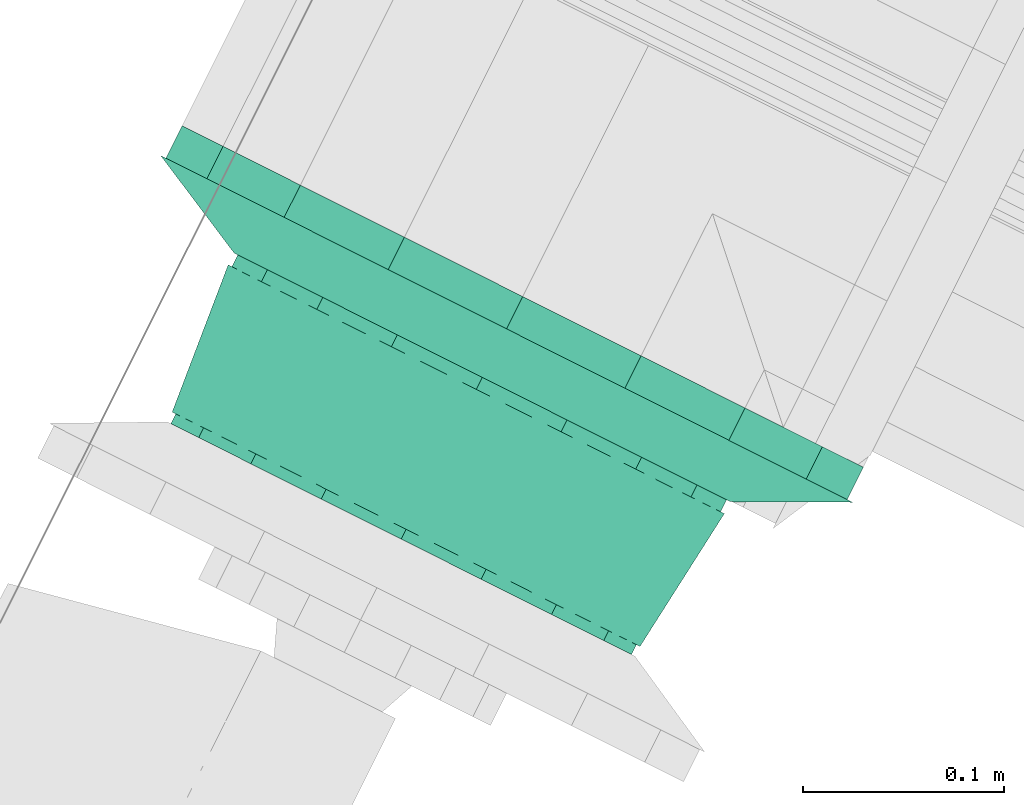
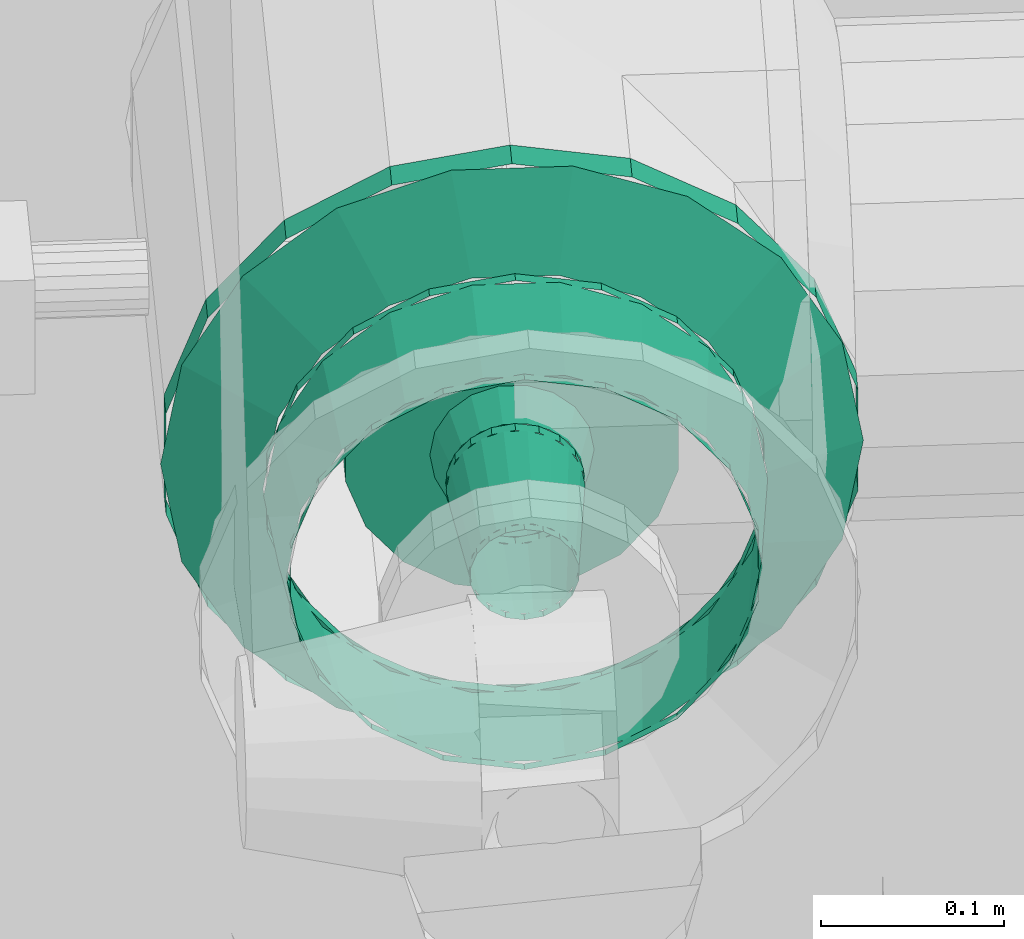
# One storey, part 144 of 206: 2 flow fittings.
"""IFC2X3 building model written with IfcOpenShell, lengths in metres."""

import ifcopenshell
import ifcopenshell.guid

model = None  # the IFC model being written
_history = None  # IfcOwnerHistory: only IFC2X3 demands one
_inside = {}  # id of a spatial element -> (the spatial element, [elements in it])
_under = {}  # id of a project, library or spatial element -> (it, [spatial elements below it])
_declared = {}  # id of a project -> (the project, [libraries it declares])
_typed = {}  # id of a type object -> (the type object, [elements of that type])
_made_of = {}  # id of a material, layer set ... -> (it, [elements and type objects made of it])


def new_model(schema):
    """Start an empty IFC model of exactly this schema.

    Asked for "IFC4X3", IfcOpenShell would pick the latest addendum, in which some entities
    have other attributes; the version numbers below select the first issue.
    IFC2X3 requires an IfcOwnerHistory on every rooted entity: one is made here for all.
    """
    global model, _history
    if schema == "IFC4X3":
        model = ifcopenshell.file(schema_version=(4, 3, 0, 0))
    else:
        model = ifcopenshell.file(schema=schema)
    _inside.clear()
    _under.clear()
    _declared.clear()
    _typed.clear()
    _made_of.clear()
    _history = None
    if model.schema == "IFC2X3":
        org = make("IfcOrganization", Name="unknown")
        user = make(
            "IfcPersonAndOrganization",
            ThePerson=make("IfcPerson", FamilyName="unknown"),
            TheOrganization=org,
        )
        app = make(
            "IfcApplication",
            ApplicationDeveloper=org,
            Version="unknown",
            ApplicationFullName="unknown",
            ApplicationIdentifier="unknown",
        )
        _history = make(
            "IfcOwnerHistory",
            OwningUser=user,
            OwningApplication=app,
            ChangeAction="ADDED",
            CreationDate=0,
        )
    return model


def make(cls, **values):
    """One entity of the class cls with the attributes given. An attribute that is None is left unset."""
    return model.create_entity(
        cls, **{name: value for name, value in values.items() if value is not None}
    )


def rooted(cls, **values):
    """An entity with a GlobalId (a new one), such as an element, a storey or a relation."""
    return make(cls, GlobalId=ifcopenshell.guid.new(), OwnerHistory=_history, **values)


def si_unit(unit_type, name, prefix=None):
    """IfcSIUnit, for example si_unit("LENGTHUNIT", "METRE", prefix="MILLI")."""
    return make("IfcSIUnit", UnitType=unit_type, Prefix=prefix, Name=name)


def derived_unit(unit_type, elements):
    """IfcDerivedUnit: a product of units, each with its exponent."""
    return make(
        "IfcDerivedUnit",
        Elements=[
            make("IfcDerivedUnitElement", Unit=unit, Exponent=power)
            for unit, power in elements
        ],
        UnitType=unit_type,
    )


def assignment(units):
    """IfcUnitAssignment: the units of a project."""
    return None if units is None else make("IfcUnitAssignment", Units=units)


def point(xyz):
    """IfcCartesianPoint."""
    return None if xyz is None else make("IfcCartesianPoint", Coordinates=xyz)


def direction(xyz):
    """IfcDirection."""
    return None if xyz is None else make("IfcDirection", DirectionRatios=xyz)


def frame(location, z_axis=None, x_axis=None):
    """IfcAxis2Placement3D, a coordinate frame: its origin and axes. An axis left out is left unset."""
    return make(
        "IfcAxis2Placement3D",
        Location=point(location),
        Axis=direction(z_axis),
        RefDirection=direction(x_axis),
    )


def origin():
    """The frame at (0, 0, 0) with its axes left unset."""
    return frame((0.0, 0.0, 0.0))


def place(relative_to, where):
    """IfcLocalPlacement: puts the frame where relative to a parent placement (None: the world)."""
    return make(
        "IfcLocalPlacement", PlacementRelTo=relative_to, RelativePlacement=where
    )


def context(
    kind, dimensions, precision=None, world=None, true_north=None, identifier=None
):
    """IfcGeometricRepresentationContext, for example the 3D "Model" context."""
    return make(
        "IfcGeometricRepresentationContext",
        ContextIdentifier=identifier,
        ContextType=kind,
        CoordinateSpaceDimension=dimensions,
        Precision=precision,
        WorldCoordinateSystem=world,
        TrueNorth=true_north,
    )


def subcontext(parent, identifier, kind, view, scale=None):
    """IfcGeometricRepresentationSubContext, for example "Body" below "Model"."""
    return make(
        "IfcGeometricRepresentationSubContext",
        ContextIdentifier=identifier,
        ContextType=kind,
        ParentContext=parent,
        TargetScale=scale,
        TargetView=view,
    )


def project(units=None, contexts=None):
    """IfcProject with its units and contexts."""
    return rooted(
        "IfcProject",
        Name="project",
        RepresentationContexts=contexts,
        UnitsInContext=assignment(units),
    )


def spatial(cls, under=None, at=None, **own):
    """A site, building, storey or space (cls), placed at a placement, below another one or the project."""
    s = rooted(cls, ObjectPlacement=at, **own)
    if under is not None:
        _under.setdefault(under.id(), (under, []))[1].append(s)
    return s


def faces_of(points, faces, orient=None, outer=None):
    """IfcFace entities. A face is a list of loops; a loop is a list of indices into points, from 0.

    orient and outer hold one flag for each loop. By default every Orientation is true, the
    first loop of a face is its IfcFaceOuterBound and the others are IfcFaceBound.
    """
    made = []
    for i, loops in enumerate(faces):
        bounds = []
        for j, loop in enumerate(loops):
            is_outer = j == 0 if outer is None else outer[i][j]
            bounds.append(
                make(
                    "IfcFaceOuterBound" if is_outer else "IfcFaceBound",
                    Bound=make("IfcPolyLoop", Polygon=[points[k] for k in loop]),
                    Orientation=True if orient is None else orient[i][j],
                )
            )
        made.append(make("IfcFace", Bounds=bounds))
    return made


def face_set(faces, orient=None, outer=None):
    """The faces of one IfcConnectedFaceSet. surface_model builds it on its shared points."""
    return ("IfcConnectedFaceSet", faces, orient, outer)


def surface_model(cls, points, shells):
    """IfcFaceBasedSurfaceModel or IfcShellBasedSurfaceModel (cls): surfaces that need not close."""
    shared = [point(p) for p in points]
    made = [make(c, CfsFaces=faces_of(shared, fs, o, b)) for c, fs, o, b in shells]
    if cls == "IfcFaceBasedSurfaceModel":
        return make(cls, FbsmFaces=made)
    return make(cls, SbsmBoundary=made)


def shape(context_of_items, identifier, shape_type, items):
    """IfcShapeRepresentation: the items that make up one representation, for example the "Body"."""
    return make(
        "IfcShapeRepresentation",
        ContextOfItems=context_of_items,
        RepresentationIdentifier=identifier,
        RepresentationType=shape_type,
        Items=items,
    )


def source(mapping_origin, context_of_items, identifier, shape_type, items):
    """IfcRepresentationMap: a shape defined once, which mapped items show again and again."""
    return make(
        "IfcRepresentationMap",
        MappingOrigin=mapping_origin,
        MappedRepresentation=shape(context_of_items, identifier, shape_type, items),
    )


def transform(
    local_origin,
    x_axis=None,
    y_axis=None,
    z_axis=None,
    scale=None,
    scale2=None,
    scale3=None,
    uniform=True,
):
    """IfcCartesianTransformationOperator3D, or its non-uniform kind. x_axis, y_axis, z_axis: its Axis1, 2, 3."""
    if uniform:
        return make(
            "IfcCartesianTransformationOperator3D",
            Axis1=direction(x_axis),
            Axis2=direction(y_axis),
            LocalOrigin=point(local_origin),
            Scale=scale,
            Axis3=direction(z_axis),
        )
    return make(
        "IfcCartesianTransformationOperator3DnonUniform",
        Axis1=direction(x_axis),
        Axis2=direction(y_axis),
        LocalOrigin=point(local_origin),
        Scale=scale,
        Axis3=direction(z_axis),
        Scale2=scale2,
        Scale3=scale3,
    )


def mapped(mapping_source, mapping_target):
    """IfcMappedItem: shows the shape of a source again, moved by a transform."""
    return make(
        "IfcMappedItem", MappingSource=mapping_source, MappingTarget=mapping_target
    )


def material(Name=None, Category=None):
    """IfcMaterial."""
    return make("IfcMaterial", Name=Name, Category=Category)


def made_of(thing, what):
    """Note that an element or type object is made of a material, layer set ...; save() writes the relation."""
    if what is not None:
        _made_of.setdefault(what.id(), (what, []))[1].append(thing)
    return thing


def type_object(cls, material=None, **own):
    """A type object (cls), such as IfcWallType, which elements share."""
    return made_of(rooted(cls, **own), material)


def type_shapes(of_type, sources):
    """Give a type object the sources (RepresentationMaps) that its elements show as mapped items."""
    of_type.RepresentationMaps = sources


def element(
    cls,
    number,
    at=None,
    inside=None,
    cuts=None,
    type_object=None,
    material=None,
    context=None,
    identifier="Body",
    shape_type=None,
    held_by="IfcProductDefinitionShape",
    body=None,
    shapes=None,
    **own,
):
    """One element of the class cls, such as IfcWall. Its Tag is "e" and its number.

    at: its placement. inside: the storey or other place that contains it. cuts: it is an
    opening in that element (IfcRelVoidsElement). A single representation is given by context,
    identifier, shape_type and body (its items); several are given by shapes. held_by: the class
    of the entity that holds the representations. save() writes the other relations.
    """
    e = rooted(cls, Tag="e%d" % number, ObjectPlacement=at, **own)
    if body is not None:
        shapes = [shape(context, identifier, shape_type, body)]
    if shapes is not None:
        e.Representation = make(held_by, Representations=shapes)
    if inside is not None:
        _inside.setdefault(inside.id(), (inside, []))[1].append(e)
    if cuts is not None:
        rooted(
            "IfcRelVoidsElement", RelatingBuildingElement=cuts, RelatedOpeningElement=e
        )
    if type_object is not None:
        _typed.setdefault(type_object.id(), (type_object, []))[1].append(e)
    return made_of(e, material)


def aggregate(whole, parts):
    """IfcRelAggregates: a whole, such as a stair, and the parts it consists of."""
    return rooted("IfcRelAggregates", RelatingObject=whole, RelatedObjects=parts)


def save(model, path):
    """Write the relations noted so far, then the file.

    IfcRelAggregates (storeys below a building ...), IfcRelContainedInSpatialStructure (elements
    in a storey), IfcRelDefinesByType, IfcRelAssociatesMaterial and IfcRelDeclares: one each for
    every whole, place, type object, material and project.
    """
    for whole, parts in _under.values():
        aggregate(whole, parts)
    for where, things in _inside.values():
        rooted(
            "IfcRelContainedInSpatialStructure",
            RelatedElements=things,
            RelatingStructure=where,
        )
    for kind, things in _typed.values():
        rooted("IfcRelDefinesByType", RelatedObjects=things, RelatingType=kind)
    for what, things in _made_of.values():
        rooted("IfcRelAssociatesMaterial", RelatedObjects=things, RelatingMaterial=what)
    for by, libraries in _declared.values():
        rooted("IfcRelDeclares", RelatingContext=by, RelatedDefinitions=libraries)
    model.write(path)


model = new_model("IFC2X3")

# Units and contexts
model_context = context("Model", 3, precision=5.2338327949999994e-05, world=origin(), true_north=direction((0.0, 1.0)))
body_context = subcontext(model_context, "Body", "Model", "MODEL_VIEW")
ifc_project = project(units=[si_unit("LENGTHUNIT", "METRE"), si_unit("AREAUNIT", "SQUARE_METRE"), si_unit("VOLUMEUNIT", "CUBIC_METRE"), si_unit("MASSUNIT", "GRAM", prefix="KILO"), si_unit("PLANEANGLEUNIT", "RADIAN"), derived_unit("THERMALTRANSMITTANCEUNIT", [(si_unit("MASSUNIT", "GRAM", prefix="KILO"), 1), (si_unit("THERMODYNAMICTEMPERATUREUNIT", "KELVIN"), -1), (si_unit("TIMEUNIT", "SECOND"), -3)])], contexts=[model_context])

# Site, building, storey
site_placement = place(None, frame((0.0, 0.0, 0.0), z_axis=(0.0, 0.0, 1.0), x_axis=(0.8939966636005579, -0.4480736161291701, 0.0)))
site = spatial("IfcSite", under=ifc_project, at=site_placement, Name="Default", CompositionType="ELEMENT")
building_placement = place(site_placement, origin())
building = spatial("IfcBuilding", under=site, at=building_placement, CompositionType="ELEMENT")
storey_placement = place(building_placement, origin())
storey = spatial("IfcBuildingStorey", under=building, at=storey_placement, Name="Erdgeschoss", CompositionType="ELEMENT", Elevation=0.0)

# Flow fittings
ifc_material = material(Name="IfcSurfaceStyle #1741")
distribution_element_type_1 = type_object("IfcDistributionElementType", Name="Flansch 325929:Flansch 325929", material=ifc_material)
shared_shape_1 = source(origin(), body_context, "Body", "SurfaceModel", [
    surface_model("IfcFaceBasedSurfaceModel", [(29.960127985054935, 9.562419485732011, 2.2215), (29.991764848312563, 9.562419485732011, 2.227078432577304), (29.991764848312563, 9.544419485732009, 2.227078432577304), (29.960127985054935, 9.544419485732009, 2.2215), (30.019585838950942, 9.562419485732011, 2.243140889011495), (30.019585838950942, 9.544419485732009, 2.243140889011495), (30.040235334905, 9.562419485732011, 2.2677499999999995), (30.040235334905, 9.544419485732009, 2.2677499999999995), (30.051222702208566, 9.562419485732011, 2.2979375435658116), (30.051222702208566, 9.544419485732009, 2.2979375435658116), (30.051222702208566, 9.562419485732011, 2.3300624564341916), (30.051222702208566, 9.544419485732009, 2.3300624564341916), (30.040235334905, 9.562419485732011, 2.360250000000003), (30.040235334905, 9.544419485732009, 2.360250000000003), (30.019585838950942, 9.562419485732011, 2.3848591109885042), (30.019585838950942, 9.544419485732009, 2.3848591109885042), (29.991764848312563, 9.562419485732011, 2.4009215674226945), (29.991764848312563, 9.544419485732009, 2.4009215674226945), (29.960127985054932, 9.562419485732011, 2.4065000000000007), (29.960127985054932, 9.544419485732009, 2.4065000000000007), (29.92849112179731, 9.562419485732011, 2.400921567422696), (29.92849112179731, 9.544419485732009, 2.400921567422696), (29.900670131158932, 9.562419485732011, 2.3848591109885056), (29.900670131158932, 9.544419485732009, 2.3848591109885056), (29.880020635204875, 9.562419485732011, 2.3602500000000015), (29.880020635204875, 9.544419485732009, 2.3602500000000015), (29.869033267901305, 9.562419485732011, 2.3300624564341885), (29.869033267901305, 9.544419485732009, 2.3300624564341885), (29.869033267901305, 9.562419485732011, 2.2979375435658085), (29.869033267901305, 9.544419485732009, 2.2979375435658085), (29.880020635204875, 9.562419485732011, 2.267749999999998), (29.880020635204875, 9.544419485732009, 2.267749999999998), (29.900670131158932, 9.562419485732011, 2.243140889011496), (29.900670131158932, 9.544419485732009, 2.243140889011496), (29.92849112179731, 9.562419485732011, 2.2270784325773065), (29.92849112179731, 9.544419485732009, 2.2270784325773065), (29.960127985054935, 9.544419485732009, 2.314), (30.005127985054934, 9.544419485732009, 2.314), (30.002414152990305, 9.544419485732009, 2.3293909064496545), (29.995883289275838, 9.51741948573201, 2.3270138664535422), (29.998177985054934, 9.517419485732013, 2.3139999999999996), (29.99459998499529, 9.544419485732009, 2.342925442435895), (29.989275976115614, 9.51741948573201, 2.338458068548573), (29.982627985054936, 9.544419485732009, 2.352971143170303), (29.979152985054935, 9.51741948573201, 2.346952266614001), (29.967942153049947, 9.544419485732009, 2.35831634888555), (29.966735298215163, 9.51741948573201, 2.3514719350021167), (29.952313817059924, 9.544419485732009, 2.3583163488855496), (29.95352067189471, 9.51741948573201, 2.351471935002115), (29.937627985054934, 9.544419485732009, 2.352971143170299), (29.94110298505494, 9.51741948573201, 2.3469522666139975), (29.925655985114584, 9.54441948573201, 2.3429254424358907), (29.93097999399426, 9.517419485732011, 2.3384580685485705), (29.91784181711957, 9.544419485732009, 2.3293909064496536), (29.92437268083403, 9.51741948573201, 2.327013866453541), (29.91512798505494, 9.54441948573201, 2.314), (29.92207798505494, 9.517419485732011, 2.314), (29.917841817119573, 9.54441948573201, 2.2986090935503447), (29.924372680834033, 9.517419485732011, 2.3009861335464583), (29.925655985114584, 9.544419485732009, 2.2850745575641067), (29.93097999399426, 9.51741948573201, 2.289541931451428), (29.937627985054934, 9.544419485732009, 2.2750288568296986), (29.94110298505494, 9.51741948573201, 2.2810477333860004), (29.952313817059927, 9.544419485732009, 2.2696836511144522), (29.953520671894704, 9.51741948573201, 2.2765280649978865), (29.96794215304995, 9.544419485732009, 2.269683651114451), (29.966735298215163, 9.51741948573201, 2.2765280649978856), (29.982627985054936, 9.544419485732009, 2.275028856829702), (29.979152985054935, 9.51741948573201, 2.2810477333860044), (29.99459998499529, 9.544419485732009, 2.285074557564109), (29.989275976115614, 9.51741948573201, 2.28954193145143), (30.0024141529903, 9.544419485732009, 2.2986090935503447), (29.995883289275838, 9.51741948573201, 2.3009861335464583), (29.960127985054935, 9.562419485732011, 2.1214999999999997), (30.02596686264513, 9.562419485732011, 2.1331091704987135), (30.02596686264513, 9.544419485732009, 2.1331091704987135), (29.960127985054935, 9.544419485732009, 2.1214999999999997), (30.083864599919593, 9.562419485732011, 2.166536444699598), (30.083864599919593, 9.544419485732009, 2.166536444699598), (30.126837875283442, 9.562419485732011, 2.2177500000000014), (30.126837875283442, 9.544419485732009, 2.2177500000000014), (30.149703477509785, 9.562419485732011, 2.2805727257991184), (30.149703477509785, 9.544419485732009, 2.2805727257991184), (30.149703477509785, 9.562419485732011, 2.347427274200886), (30.149703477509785, 9.544419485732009, 2.347427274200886), (30.126837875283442, 9.562419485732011, 2.410250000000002), (30.126837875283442, 9.544419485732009, 2.410250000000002), (30.083864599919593, 9.562419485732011, 2.4614635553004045), (30.083864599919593, 9.544419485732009, 2.4614635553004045), (30.025966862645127, 9.562419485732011, 2.4948908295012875), (30.025966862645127, 9.544419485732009, 2.4948908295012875), (29.960127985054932, 9.562419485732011, 2.506499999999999), (29.960127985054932, 9.544419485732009, 2.5065), (29.894289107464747, 9.562419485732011, 2.494890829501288), (29.894289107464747, 9.544419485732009, 2.494890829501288), (29.836391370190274, 9.562419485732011, 2.4614635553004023), (29.836391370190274, 9.544419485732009, 2.4614635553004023), (29.793418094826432, 9.562419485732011, 2.410250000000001), (29.793418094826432, 9.544419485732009, 2.410250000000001), (29.770552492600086, 9.562419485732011, 2.3474272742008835), (29.770552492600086, 9.544419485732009, 2.3474272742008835), (29.770552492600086, 9.562419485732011, 2.2805727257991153), (29.770552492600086, 9.544419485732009, 2.2805727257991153), (29.793418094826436, 9.562419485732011, 2.217749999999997), (29.793418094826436, 9.544419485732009, 2.217749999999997), (29.83639137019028, 9.562419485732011, 2.166536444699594), (29.83639137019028, 9.544419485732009, 2.166536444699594), (29.894289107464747, 9.562419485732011, 2.133109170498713), (29.894289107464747, 9.544419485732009, 2.133109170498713), (30.152627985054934, 9.544419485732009, 2.3140000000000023), (30.141018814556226, 9.544419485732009, 2.379838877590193), (30.08985255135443, 9.51741948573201, 2.3612158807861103), (30.098177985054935, 9.51741948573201, 2.3140000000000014), (30.107591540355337, 9.544419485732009, 2.43773661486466), (30.06588042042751, 9.51741948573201, 2.4027368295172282), (30.056377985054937, 9.544419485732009, 2.480709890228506), (30.029152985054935, 9.51741948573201, 2.433554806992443), (29.993555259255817, 9.544419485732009, 2.5035754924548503), (29.98410011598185, 9.51741948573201, 2.449952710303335), (29.92670071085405, 9.544419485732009, 2.50357549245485), (29.936155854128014, 9.51741948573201, 2.449952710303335), (29.863877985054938, 9.544419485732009, 2.4807098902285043), (29.891102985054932, 9.51741948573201, 2.4335548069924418), (29.81266442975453, 9.544419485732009, 2.4377366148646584), (29.85437554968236, 9.51741948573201, 2.402736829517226), (29.77923715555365, 9.54441948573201, 2.3798388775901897), (29.830403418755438, 9.517419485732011, 2.3612158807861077), (29.767627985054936, 9.544419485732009, 2.313999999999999), (29.82207798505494, 9.51741948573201, 2.313999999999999), (29.77923715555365, 9.54441948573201, 2.2481611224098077), (29.830403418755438, 9.517419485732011, 2.2667841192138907), (29.81266442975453, 9.54441948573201, 2.1902633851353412), (29.854375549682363, 9.517419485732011, 2.2252631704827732), (29.86387798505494, 9.544419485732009, 2.147290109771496), (29.891102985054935, 9.51741948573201, 2.194445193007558), (29.92670071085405, 9.544419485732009, 2.12442450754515), (29.936155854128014, 9.51741948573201, 2.1780472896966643), (29.993555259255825, 9.544419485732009, 2.1244245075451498), (29.98410011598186, 9.51741948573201, 2.178047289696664), (30.056377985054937, 9.544419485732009, 2.1472901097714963), (30.029152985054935, 9.51741948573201, 2.194445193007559), (30.107591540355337, 9.544419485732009, 2.190263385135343), (30.06588042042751, 9.51741948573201, 2.225263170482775), (30.141018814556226, 9.544419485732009, 2.2481611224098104), (30.089852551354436, 9.51741948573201, 2.2667841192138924)], [face_set([[[0, 1, 2, 3]], [[1, 4, 5, 2]], [[4, 6, 7, 5]], [[6, 8, 9, 7]], [[8, 10, 11, 9]], [[10, 12, 13, 11]], [[12, 14, 15, 13]], [[14, 16, 17, 15]], [[16, 18, 19, 17]], [[18, 20, 21, 19]], [[20, 22, 23, 21]], [[22, 24, 25, 23]], [[24, 26, 27, 25]], [[26, 28, 29, 27]], [[28, 30, 31, 29]], [[30, 32, 33, 31]], [[32, 34, 35, 33]], [[34, 0, 3, 35]], [[36, 35, 3]], [[36, 33, 35]], [[36, 31, 33]], [[36, 29, 31]], [[36, 27, 29]], [[36, 25, 27]], [[36, 23, 25]], [[36, 21, 23]], [[36, 19, 21]], [[36, 17, 19]], [[36, 15, 17]], [[36, 13, 15]], [[36, 11, 13]], [[36, 9, 11]], [[36, 7, 9]], [[36, 5, 7]], [[36, 2, 5]], [[36, 3, 2]], [[37, 38, 39, 40]], [[38, 41, 42, 39]], [[41, 43, 44, 42]], [[43, 45, 46, 44]], [[45, 47, 48, 46]], [[47, 49, 50, 48]], [[49, 51, 52, 50]], [[51, 53, 54, 52]], [[53, 55, 56, 54]], [[55, 57, 58, 56]], [[57, 59, 60, 58]], [[59, 61, 62, 60]], [[61, 63, 64, 62]], [[63, 65, 66, 64]], [[65, 67, 68, 66]], [[67, 69, 70, 68]], [[69, 71, 72, 70]], [[71, 37, 40, 72]], [[73, 74, 75, 76]], [[74, 77, 78, 75]], [[77, 79, 80, 78]], [[79, 81, 82, 80]], [[81, 83, 84, 82]], [[83, 85, 86, 84]], [[85, 87, 88, 86]], [[87, 89, 90, 88]], [[89, 91, 92, 90]], [[91, 93, 94, 92]], [[93, 95, 96, 94]], [[95, 97, 98, 96]], [[97, 99, 100, 98]], [[99, 101, 102, 100]], [[101, 103, 104, 102]], [[103, 105, 106, 104]], [[105, 107, 108, 106]], [[107, 73, 76, 108]], [[109, 110, 111, 112]], [[110, 113, 114, 111]], [[113, 115, 116, 114]], [[115, 117, 118, 116]], [[117, 119, 120, 118]], [[119, 121, 122, 120]], [[121, 123, 124, 122]], [[123, 125, 126, 124]], [[125, 127, 128, 126]], [[127, 129, 130, 128]], [[129, 131, 132, 130]], [[131, 133, 134, 132]], [[133, 135, 136, 134]], [[135, 137, 138, 136]], [[137, 139, 140, 138]], [[139, 141, 142, 140]], [[141, 143, 144, 142]], [[143, 109, 112, 144]]])]),
])
type_shapes(distribution_element_type_1, [shared_shape_1])
flow_fitting_1_placement = place(storey_placement, origin())
element("IfcFlowFitting", 1, at=flow_fitting_1_placement, inside=storey, type_object=distribution_element_type_1, material=ifc_material, Name="Flansch", ObjectType="Flansch", context=body_context, shape_type="MappedRepresentation", body=[
    mapped(shared_shape_1, transform((0.0, 0.0, 0.0), scale=1.0)),
])
distribution_element_type_2 = type_object("IfcDistributionElementType", Name="Übergangsstück 325952:Übergangsstück 325952", material=ifc_material)
shared_shape_2 = source(origin(), body_context, "Body", "SurfaceModel", [
    surface_model("IfcFaceBasedSurfaceModel", [(29.960127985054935, 9.427419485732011, 2.344150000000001), (29.97043989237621, 9.427419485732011, 2.342331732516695), (29.97043989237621, 9.432910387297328, 2.342331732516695), (29.960127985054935, 9.432910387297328, 2.344150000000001), (29.979508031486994, 9.427419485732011, 2.3370962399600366), (29.979508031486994, 9.432910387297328, 2.3370962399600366), (29.986238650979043, 9.427419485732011, 2.329075), (29.986238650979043, 9.432910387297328, 2.329075), (29.989819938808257, 9.427419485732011, 2.319235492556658), (29.989819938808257, 9.432910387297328, 2.319235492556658), (29.989819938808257, 9.427419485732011, 2.308764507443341), (29.989819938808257, 9.432910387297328, 2.308764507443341), (29.986238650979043, 9.427419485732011, 2.298924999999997), (29.986238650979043, 9.432910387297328, 2.298924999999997), (29.97950803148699, 9.427419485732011, 2.2909037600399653), (29.97950803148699, 9.432910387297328, 2.2909037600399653), (29.97043989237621, 9.427419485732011, 2.285668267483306), (29.97043989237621, 9.432910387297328, 2.285668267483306), (29.960127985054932, 9.427419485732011, 2.2838500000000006), (29.960127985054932, 9.432910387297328, 2.2838500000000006), (29.94981607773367, 9.427419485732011, 2.2856682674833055), (29.94981607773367, 9.432910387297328, 2.2856682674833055), (29.94074793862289, 9.427419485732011, 2.290903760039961), (29.94074793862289, 9.432910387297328, 2.290903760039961), (29.934017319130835, 9.427419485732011, 2.2989250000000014), (29.934017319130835, 9.432910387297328, 2.2989250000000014), (29.930436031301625, 9.427419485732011, 2.308764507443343), (29.930436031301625, 9.432910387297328, 2.308764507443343), (29.930436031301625, 9.427419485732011, 2.319235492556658), (29.930436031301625, 9.432910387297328, 2.319235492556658), (29.934017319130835, 9.427419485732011, 2.3290750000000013), (29.934017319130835, 9.432910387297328, 2.3290750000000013), (29.940747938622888, 9.427419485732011, 2.337096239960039), (29.940747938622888, 9.432910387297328, 2.337096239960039), (29.949816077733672, 9.427419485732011, 2.3423317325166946), (29.949816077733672, 9.432910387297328, 2.3423317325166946), (29.92997798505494, 9.432910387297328, 2.314), (29.93179625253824, 9.432910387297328, 2.324311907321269), (29.92437268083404, 9.510804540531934, 2.3270138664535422), (29.922077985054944, 9.510804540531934, 2.3140000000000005), (29.937031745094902, 9.432910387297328, 2.3333800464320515), (29.93097999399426, 9.510804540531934, 2.338458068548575), (29.945052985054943, 9.432910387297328, 2.3401106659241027), (29.941102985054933, 9.510804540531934, 2.3469522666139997), (29.954892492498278, 9.432910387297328, 2.3436919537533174), (29.953520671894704, 9.510804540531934, 2.3514719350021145), (29.965363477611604, 9.432910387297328, 2.3436919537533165), (29.966735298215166, 9.510804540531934, 2.351471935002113), (29.97520298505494, 9.432910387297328, 2.3401106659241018), (29.979152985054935, 9.510804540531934, 2.3469522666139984), (29.98322422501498, 9.432910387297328, 2.3333800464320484), (29.989275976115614, 9.510804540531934, 2.3384580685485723), (29.98845971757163, 9.432910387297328, 2.3243119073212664), (29.995883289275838, 9.510804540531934, 2.3270138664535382), (29.990277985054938, 9.432910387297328, 2.3139999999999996), (29.998177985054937, 9.510804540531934, 2.3139999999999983), (29.98845971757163, 9.432910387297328, 2.3036880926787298), (29.995883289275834, 9.510804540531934, 2.3009861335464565), (29.983224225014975, 9.432910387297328, 2.2946199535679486), (29.989275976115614, 9.510804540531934, 2.2895419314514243), (29.97520298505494, 9.432910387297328, 2.287889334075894), (29.97915298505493, 9.510804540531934, 2.281047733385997), (29.965363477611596, 9.432910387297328, 2.2843080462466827), (29.966735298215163, 9.510804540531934, 2.2765280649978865), (29.954892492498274, 9.432910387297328, 2.2843080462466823), (29.953520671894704, 9.510804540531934, 2.276528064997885), (29.94505298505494, 9.432910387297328, 2.287889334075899), (29.94110298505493, 9.510804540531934, 2.2810477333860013), (29.937031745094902, 9.432910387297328, 2.2946199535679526), (29.930979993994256, 9.510804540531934, 2.289541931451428), (29.931796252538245, 9.432910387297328, 2.3036880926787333), (29.924372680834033, 9.510804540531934, 2.3009861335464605), (29.960127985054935, 9.510804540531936, 2.35205), (29.97314185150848, 9.510804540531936, 2.3497553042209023), (29.97314185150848, 9.51741948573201, 2.3497553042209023), (29.960127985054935, 9.51741948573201, 2.35205), (29.98458605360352, 9.510804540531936, 2.3431479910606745), (29.98458605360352, 9.51741948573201, 2.3431479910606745), (29.993080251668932, 9.510804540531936, 2.333024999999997), (29.993080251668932, 9.51741948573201, 2.333024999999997), (29.997599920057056, 9.510804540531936, 2.3206073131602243), (29.997599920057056, 9.51741948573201, 2.3206073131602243), (29.997599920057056, 9.510804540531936, 2.3073926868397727), (29.997599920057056, 9.51741948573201, 2.3073926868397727), (29.993080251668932, 9.510804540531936, 2.294975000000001), (29.993080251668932, 9.51741948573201, 2.294975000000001), (29.98458605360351, 9.510804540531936, 2.2848520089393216), (29.98458605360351, 9.51741948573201, 2.2848520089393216), (29.97314185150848, 9.510804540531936, 2.2782446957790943), (29.97314185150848, 9.51741948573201, 2.2782446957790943), (29.960127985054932, 9.510804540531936, 2.275950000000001), (29.960127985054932, 9.51741948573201, 2.275950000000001), (29.947114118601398, 9.510804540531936, 2.278244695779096), (29.947114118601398, 9.51741948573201, 2.278244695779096), (29.935669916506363, 9.510804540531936, 2.284852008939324), (29.935669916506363, 9.51741948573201, 2.284852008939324), (29.92717571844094, 9.510804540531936, 2.2949749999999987), (29.92717571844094, 9.51741948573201, 2.2949749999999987), (29.922656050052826, 9.510804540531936, 2.3073926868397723), (29.922656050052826, 9.51741948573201, 2.3073926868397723), (29.922656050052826, 9.510804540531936, 2.3206073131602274), (29.922656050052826, 9.51741948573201, 2.3206073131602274), (29.92717571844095, 9.510804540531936, 2.333025), (29.92717571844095, 9.51741948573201, 2.333025), (29.935669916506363, 9.510804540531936, 2.3431479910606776), (29.935669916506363, 9.51741948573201, 2.3431479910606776), (29.947114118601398, 9.510804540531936, 2.349755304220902), (29.947114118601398, 9.51741948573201, 2.349755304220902), (29.960127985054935, 9.427419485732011, 2.4441500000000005), (30.00464190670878, 9.427419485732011, 2.4363009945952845), (30.00464190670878, 9.432910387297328, 2.4363009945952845), (29.960127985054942, 9.432910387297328, 2.44415), (30.043786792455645, 9.427419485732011, 2.4137006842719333), (30.043786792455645, 9.432910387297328, 2.4137006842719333), (30.072841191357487, 9.427419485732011, 2.379074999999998), (30.072841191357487, 9.432910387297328, 2.379074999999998), (30.088300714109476, 9.427419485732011, 2.3366003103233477), (30.088300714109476, 9.432910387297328, 2.3366003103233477), (30.088300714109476, 9.427419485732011, 2.2913996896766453), (30.088300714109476, 9.432910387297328, 2.2913996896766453), (30.072841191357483, 9.427419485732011, 2.248924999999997), (30.072841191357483, 9.432910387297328, 2.248924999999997), (30.043786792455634, 9.427419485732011, 2.2142993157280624), (30.043786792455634, 9.432910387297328, 2.2142993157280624), (30.004641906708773, 9.427419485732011, 2.1916990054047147), (30.004641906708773, 9.432910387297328, 2.1916990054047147), (29.960127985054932, 9.427419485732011, 2.1838500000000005), (29.960127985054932, 9.432910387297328, 2.1838500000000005), (29.9156140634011, 9.427419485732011, 2.191699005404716), (29.9156140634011, 9.432910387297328, 2.191699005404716), (29.876469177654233, 9.427419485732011, 2.2142993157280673), (29.876469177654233, 9.432910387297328, 2.2142993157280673), (29.84741477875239, 9.427419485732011, 2.248925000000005), (29.84741477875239, 9.432910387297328, 2.248925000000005), (29.831955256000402, 9.427419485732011, 2.2913996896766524), (29.831955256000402, 9.432910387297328, 2.2913996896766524), (29.831955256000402, 9.427419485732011, 2.336600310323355), (29.831955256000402, 9.432910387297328, 2.336600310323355), (29.8474147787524, 9.427419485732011, 2.379075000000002), (29.8474147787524, 9.432910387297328, 2.379075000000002), (29.87646917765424, 9.427419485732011, 2.4137006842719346), (29.87646917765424, 9.432910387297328, 2.4137006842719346), (29.9156140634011, 9.427419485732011, 2.4363009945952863), (29.9156140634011, 9.432910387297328, 2.4363009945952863), (29.829977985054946, 9.432910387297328, 2.314000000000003), (29.83782699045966, 9.432910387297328, 2.3585139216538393), (29.830403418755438, 9.510804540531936, 2.361215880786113), (29.82207798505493, 9.510804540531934, 2.3140000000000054), (29.860427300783, 9.432910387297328, 2.397658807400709), (29.854375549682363, 9.510804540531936, 2.4027368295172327), (29.895052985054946, 9.432910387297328, 2.426713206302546), (29.891102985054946, 9.510804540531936, 2.433554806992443), (29.93752767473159, 9.432910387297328, 2.4421727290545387), (29.936155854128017, 9.510804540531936, 2.4499527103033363), (29.982728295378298, 9.432910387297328, 2.4421727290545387), (29.984100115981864, 9.510804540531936, 2.4499527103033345), (30.025202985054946, 9.432910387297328, 2.426713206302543), (30.02915298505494, 9.510804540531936, 2.43355480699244), (30.05982866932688, 9.432910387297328, 2.3976588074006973), (30.065880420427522, 9.510804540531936, 2.4027368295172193), (30.082428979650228, 9.432910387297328, 2.3585139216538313), (30.089852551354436, 9.510804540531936, 2.3612158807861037), (30.090277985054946, 9.432910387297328, 2.3139999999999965), (30.09817798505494, 9.510804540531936, 2.313999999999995), (30.08242897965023, 9.432910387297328, 2.2694860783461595), (30.08985255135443, 9.510804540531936, 2.2667841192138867), (30.059828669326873, 9.432910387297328, 2.2303411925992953), (30.065880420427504, 9.510804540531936, 2.2252631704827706), (30.025202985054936, 9.432910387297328, 2.201286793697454), (30.02915298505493, 9.510804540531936, 2.1944451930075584), (29.98272829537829, 9.432910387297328, 2.185827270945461), (29.98410011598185, 9.510804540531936, 2.178047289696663), (29.937527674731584, 9.432910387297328, 2.185827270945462), (29.936155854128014, 9.510804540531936, 2.178047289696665), (29.895052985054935, 9.432910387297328, 2.201286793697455), (29.891102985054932, 9.510804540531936, 2.1944451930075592), (29.860427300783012, 9.432910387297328, 2.2303411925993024), (29.85437554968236, 9.510804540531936, 2.2252631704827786), (29.837826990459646, 9.432910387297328, 2.2694860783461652), (29.830403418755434, 9.510804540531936, 2.266784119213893), (29.960127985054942, 9.510804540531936, 2.4520500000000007), (30.007343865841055, 9.510804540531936, 2.443724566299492), (30.007343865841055, 9.51741948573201, 2.443724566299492), (29.960127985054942, 9.51741948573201, 2.4520500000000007), (30.048864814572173, 9.510804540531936, 2.4197524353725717), (30.048864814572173, 9.51741948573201, 2.4197524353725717), (30.079682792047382, 9.510804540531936, 2.383024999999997), (30.079682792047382, 9.51741948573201, 2.383024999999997), (30.096080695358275, 9.510804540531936, 2.337972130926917), (30.096080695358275, 9.51741948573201, 2.337972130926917), (30.096080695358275, 9.510804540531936, 2.290027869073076), (30.096080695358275, 9.51741948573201, 2.290027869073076), (30.07968279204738, 9.510804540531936, 2.244975), (30.07968279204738, 9.51741948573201, 2.244975), (30.04886481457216, 9.510804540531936, 2.2082475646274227), (30.04886481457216, 9.51741948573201, 2.2082475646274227), (30.007343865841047, 9.510804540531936, 2.1842754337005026), (30.007343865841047, 9.51741948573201, 2.1842754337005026), (29.960127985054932, 9.510804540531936, 2.1759500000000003), (29.960127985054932, 9.51741948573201, 2.1759500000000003), (29.912912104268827, 9.510804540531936, 2.184275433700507), (29.912912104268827, 9.51741948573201, 2.184275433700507), (29.8713911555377, 9.510804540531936, 2.208247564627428), (29.8713911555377, 9.51741948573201, 2.208247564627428), (29.840573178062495, 9.510804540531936, 2.2449750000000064), (29.840573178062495, 9.51741948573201, 2.2449750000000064), (29.824175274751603, 9.510804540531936, 2.2900278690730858), (29.824175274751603, 9.51741948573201, 2.2900278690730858), (29.824175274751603, 9.510804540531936, 2.3379721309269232), (29.824175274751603, 9.51741948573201, 2.3379721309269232), (29.8405731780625, 9.510804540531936, 2.383025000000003), (29.8405731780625, 9.51741948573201, 2.383025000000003), (29.871391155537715, 9.510804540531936, 2.4197524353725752), (29.871391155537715, 9.51741948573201, 2.4197524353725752), (29.912912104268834, 9.510804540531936, 2.443724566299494), (29.912912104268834, 9.51741948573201, 2.443724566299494)], [face_set([[[0, 1, 2, 3]], [[1, 4, 5, 2]], [[4, 6, 7, 5]], [[6, 8, 9, 7]], [[8, 10, 11, 9]], [[10, 12, 13, 11]], [[12, 14, 15, 13]], [[14, 16, 17, 15]], [[16, 18, 19, 17]], [[18, 20, 21, 19]], [[20, 22, 23, 21]], [[22, 24, 25, 23]], [[24, 26, 27, 25]], [[26, 28, 29, 27]], [[28, 30, 31, 29]], [[30, 32, 33, 31]], [[32, 34, 35, 33]], [[34, 0, 3, 35]], [[36, 37, 38, 39]], [[37, 40, 41, 38]], [[40, 42, 43, 41]], [[42, 44, 45, 43]], [[44, 46, 47, 45]], [[46, 48, 49, 47]], [[48, 50, 51, 49]], [[50, 52, 53, 51]], [[52, 54, 55, 53]], [[54, 56, 57, 55]], [[56, 58, 59, 57]], [[58, 60, 61, 59]], [[60, 62, 63, 61]], [[62, 64, 65, 63]], [[64, 66, 67, 65]], [[66, 68, 69, 67]], [[68, 70, 71, 69]], [[70, 36, 39, 71]], [[72, 73, 74, 75]], [[73, 76, 77, 74]], [[76, 78, 79, 77]], [[78, 80, 81, 79]], [[80, 82, 83, 81]], [[82, 84, 85, 83]], [[84, 86, 87, 85]], [[86, 88, 89, 87]], [[88, 90, 91, 89]], [[90, 92, 93, 91]], [[92, 94, 95, 93]], [[94, 96, 97, 95]], [[96, 98, 99, 97]], [[98, 100, 101, 99]], [[100, 102, 103, 101]], [[102, 104, 105, 103]], [[104, 106, 107, 105]], [[106, 72, 75, 107]], [[108, 109, 110, 111]], [[109, 112, 113, 110]], [[112, 114, 115, 113]], [[114, 116, 117, 115]], [[116, 118, 119, 117]], [[118, 120, 121, 119]], [[120, 122, 123, 121]], [[122, 124, 125, 123]], [[124, 126, 127, 125]], [[126, 128, 129, 127]], [[128, 130, 131, 129]], [[130, 132, 133, 131]], [[132, 134, 135, 133]], [[134, 136, 137, 135]], [[136, 138, 139, 137]], [[138, 140, 141, 139]], [[140, 142, 143, 141]], [[142, 108, 111, 143]], [[144, 145, 146, 147]], [[145, 148, 149, 146]], [[148, 150, 151, 149]], [[150, 152, 153, 151]], [[152, 154, 155, 153]], [[154, 156, 157, 155]], [[156, 158, 159, 157]], [[158, 160, 161, 159]], [[160, 162, 163, 161]], [[162, 164, 165, 163]], [[164, 166, 167, 165]], [[166, 168, 169, 167]], [[168, 170, 171, 169]], [[170, 172, 173, 171]], [[172, 174, 175, 173]], [[174, 176, 177, 175]], [[176, 178, 179, 177]], [[178, 144, 147, 179]], [[180, 181, 182, 183]], [[181, 184, 185, 182]], [[184, 186, 187, 185]], [[186, 188, 189, 187]], [[188, 190, 191, 189]], [[190, 192, 193, 191]], [[192, 194, 195, 193]], [[194, 196, 197, 195]], [[196, 198, 199, 197]], [[198, 200, 201, 199]], [[200, 202, 203, 201]], [[202, 204, 205, 203]], [[204, 206, 207, 205]], [[206, 208, 209, 207]], [[208, 210, 211, 209]], [[210, 212, 213, 211]], [[212, 214, 215, 213]], [[214, 180, 183, 215]]])]),
])
type_shapes(distribution_element_type_2, [shared_shape_2])
flow_fitting_2_placement = place(storey_placement, origin())
element("IfcFlowFitting", 2, at=flow_fitting_2_placement, inside=storey, type_object=distribution_element_type_2, material=ifc_material, Name="Übergangsstück", ObjectType="Übergangsstück", context=body_context, shape_type="MappedRepresentation", body=[
    mapped(shared_shape_2, transform((0.0, 0.0, 0.0), scale=1.0)),
])

save(model, "model.ifc")
